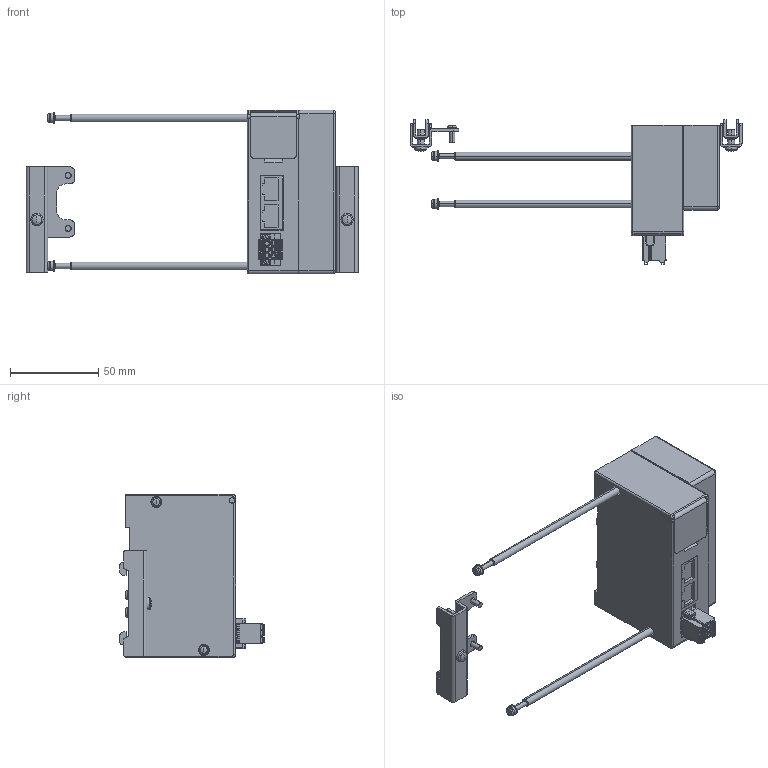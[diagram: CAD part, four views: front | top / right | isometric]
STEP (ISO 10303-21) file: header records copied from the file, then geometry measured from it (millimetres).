
FILE_DESCRIPTION( (''), '2;1');
FILE_NAME ('YS8EK3-5-DN.stp','2022-12-01T14:38:38',(''),(''),'spGate 12.6.6','','');
FILE_SCHEMA (('AUTOMOTIVE_DESIGN'));
Length unit declared in the file: millimetre
Products named in the file (3): Assembly; YS8EK3-5-DN-prt0; YS8EK3-5-DN-prt1
Assembly tree (3 placements, depth 2):
  Assembly
    YS8EK3-5-DN-prt0
    YS8EK3-5-DN-prt1  x2
Bounding box: 188.5 x 82.1 x 93 mm (x, y, z)
Volume: 267028.7 mm3; surface area: 48160.6 mm2
Topology: 3 solids, 3 shells, 971 faces, 2541 edges, 1629 vertices
Faces by surface type: plane 563, cylinder 310, bspline 82, sphere 16
Entity records: 43962 total; most frequent: CARTESIAN_POINT 6025, ORIENTED_EDGE 4360, DIRECTION 4124, COLOUR_RGB 3022, PRESENTATION_STYLE_ASSIGNMENT 3022, STYLED_ITEM 3022, EDGE_CURVE 2180, DRAUGHTING_PRE_DEFINED_CURVE_FONT 2180
